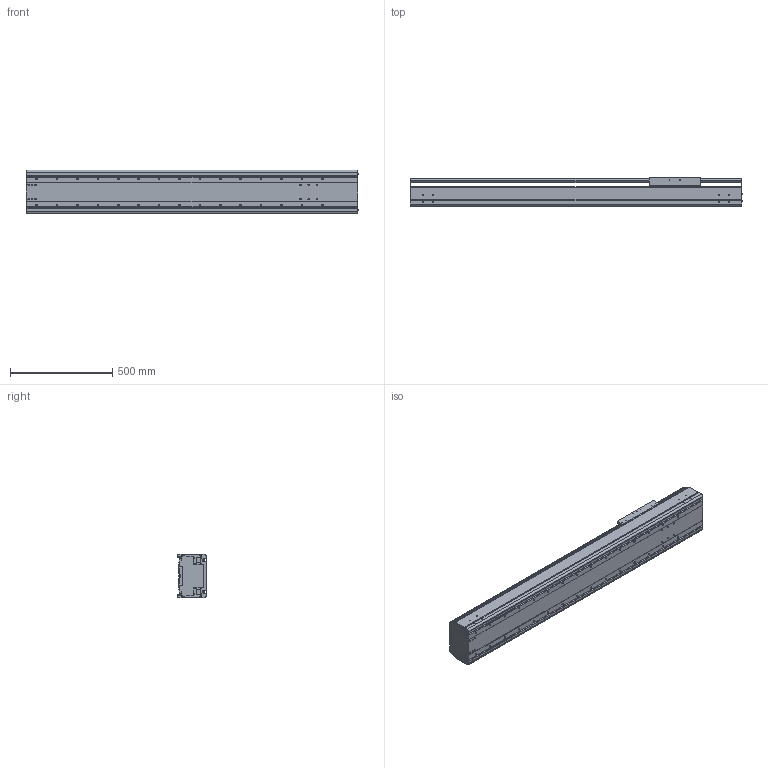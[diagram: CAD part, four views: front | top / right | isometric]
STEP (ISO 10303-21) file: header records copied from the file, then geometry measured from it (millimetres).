
FILE_DESCRIPTION((''),'2;1');
FILE_NAME('BE60J-ST-M_B-B0_IGS_PRT','2017-06-18T',(' '),(''),'PRO/ENGINEER BY PARAMETRIC TECHNOLOGY CORPORATION, 2015030','PRO/ENGINEER BY PARAMETRIC TECHNOLOGY CORPORATION, 2015030','');
FILE_SCHEMA(('CONFIG_CONTROL_DESIGN'));
Length unit declared in the file: millimetre
Products named in the file (1): BE60J-ST-M_B-B0_IGS_PRT
Bounding box: 1627.4 x 140 x 214 mm (x, y, z)
Volume: 12708386.4 mm3; surface area: 3387138.4 mm2
Topology: 2 solids, 28 shells, 1109 faces, 2932 edges, 1889 vertices
Faces by surface type: plane 527, cylinder 482, cone 52, sphere 24, torus 24
Entity records: 34687 total; most frequent: CARTESIAN_POINT 6454, DIRECTION 6048, ORIENTED_EDGE 5668, EDGE_CURVE 2882, AXIS2_PLACEMENT_3D 2166, VERTEX_POINT 1888, VECTOR 1716, LINE 1716
